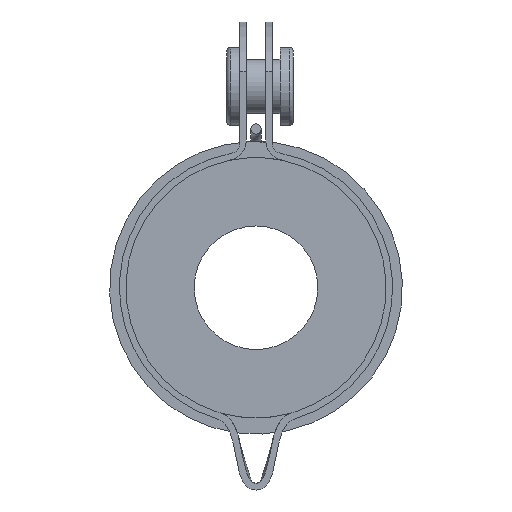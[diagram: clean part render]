
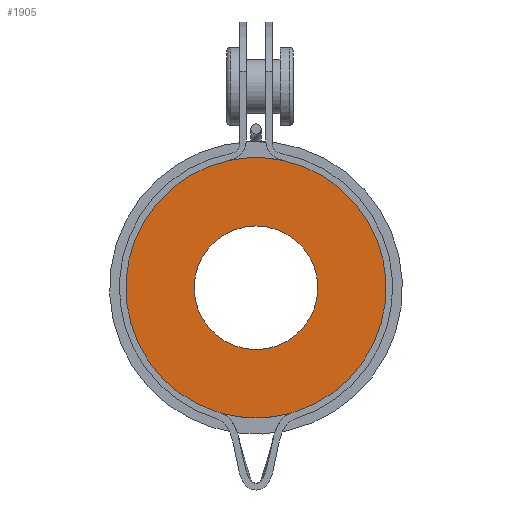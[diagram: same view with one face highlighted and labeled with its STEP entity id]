
A CAD part, front view. The second image highlights one B-rep face of the part: STEP entity #1905.
In plain terms, the highlighted planar face has unit normal (0, -1, 0).
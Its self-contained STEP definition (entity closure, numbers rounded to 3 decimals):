
#48=LINE($,#3117,#124);
#49=LINE($,#3124,#125);
#124=VECTOR($,#2494,0.151);
#125=VECTOR($,#2501,0.151);
#199=B_SPLINE_CURVE_WITH_KNOTS($,3,(#3105,#3106,#3107,#3108),
 .UNSPECIFIED.,.F.,.F.,(4,4),(0.,0.027),.UNSPECIFIED.);
#200=B_SPLINE_CURVE_WITH_KNOTS($,3,(#3112,#3113,#3114,#3115),
 .UNSPECIFIED.,.F.,.F.,(4,4),(0.125,0.151),
 .UNSPECIFIED.);
#295=FACE_BOUND($,#607,.T.);
#434=FACE_OUTER_BOUND($,#606,.T.);
#606=EDGE_LOOP($,(#1357,#1358,#1359,#1360,#1361,#1362,#1363,#1364));
#607=EDGE_LOOP($,(#1365));
#758=CIRCLE($,#2101,4.75);
#763=CIRCLE($,#2108,10.);
#764=CIRCLE($,#2109,10.);
#765=CIRCLE($,#2110,10.);
#766=CIRCLE($,#2111,10.);
#887=VERTEX_POINT($,#3077);
#896=VERTEX_POINT($,#3103);
#897=VERTEX_POINT($,#3104);
#898=VERTEX_POINT($,#3109);
#899=VERTEX_POINT($,#3111);
#900=VERTEX_POINT($,#3116);
#901=VERTEX_POINT($,#3118);
#902=VERTEX_POINT($,#3120);
#903=VERTEX_POINT($,#3122);
#1065=EDGE_CURVE($,#887,#887,#758,.T.);
#1074=EDGE_CURVE($,#896,#897,#199,.T.);
#1075=EDGE_CURVE($,#897,#898,#763,.T.);
#1076=EDGE_CURVE($,#898,#899,#200,.T.);
#1077=EDGE_CURVE($,#899,#900,#48,.T.);
#1078=EDGE_CURVE($,#900,#901,#764,.T.);
#1079=EDGE_CURVE($,#901,#902,#765,.T.);
#1080=EDGE_CURVE($,#902,#903,#766,.T.);
#1081=EDGE_CURVE($,#903,#896,#49,.T.);
#1357=ORIENTED_EDGE($,*,*,#1074,.T.);
#1358=ORIENTED_EDGE($,*,*,#1075,.T.);
#1359=ORIENTED_EDGE($,*,*,#1076,.T.);
#1360=ORIENTED_EDGE($,*,*,#1077,.T.);
#1361=ORIENTED_EDGE($,*,*,#1078,.T.);
#1362=ORIENTED_EDGE($,*,*,#1079,.T.);
#1363=ORIENTED_EDGE($,*,*,#1080,.T.);
#1364=ORIENTED_EDGE($,*,*,#1081,.T.);
#1365=ORIENTED_EDGE($,*,*,#1065,.T.);
#1695=PLANE($,#2107);
#1905=ADVANCED_FACE($,(#434,#295),#1695,.T.);
#2101=AXIS2_PLACEMENT_3D($,#3078,#2476,#2477);
#2107=AXIS2_PLACEMENT_3D($,#3102,#2490,#2491);
#2108=AXIS2_PLACEMENT_3D($,#3110,#2492,#2493);
#2109=AXIS2_PLACEMENT_3D($,#3119,#2495,#2496);
#2110=AXIS2_PLACEMENT_3D($,#3121,#2497,#2498);
#2111=AXIS2_PLACEMENT_3D($,#3123,#2499,#2500);
#2476=DIRECTION('center_axis',(0.,1.,0.));
#2477=DIRECTION('ref_axis',(1.,0.,0.));
#2490=DIRECTION('center_axis',(0.,-1.,0.));
#2491=DIRECTION('ref_axis',(0.,0.,-1.));
#2492=DIRECTION('center_axis',(0.,-1.,0.));
#2493=DIRECTION('ref_axis',(1.,0.,0.));
#2494=DIRECTION($,(0.99,0.,0.144));
#2495=DIRECTION('center_axis',(0.,-1.,0.));
#2496=DIRECTION('ref_axis',(1.,0.,0.));
#2497=DIRECTION('center_axis',(0.,-1.,0.));
#2498=DIRECTION('ref_axis',(1.,0.,0.));
#2499=DIRECTION('center_axis',(0.,-1.,0.));
#2500=DIRECTION('ref_axis',(1.,0.,0.));
#2501=DIRECTION($,(0.99,0.,-0.144));
#3077=CARTESIAN_POINT('',(-4.75,0.,0.));
#3078=CARTESIAN_POINT('Origin',(0.,0.,0.));
#3102=CARTESIAN_POINT('Origin',(0.,0.,0.));
#3103=CARTESIAN_POINT('',(-2.851,0.,-9.561));
#3104=CARTESIAN_POINT('',(-2.604,0.,-9.655));
#3105=CARTESIAN_POINT('Ctrl Pts',(-2.851,0.,-9.561));
#3106=CARTESIAN_POINT('Ctrl Pts',(-2.765,0.,-9.587));
#3107=CARTESIAN_POINT('Ctrl Pts',(-2.682,0.,
-9.618));
#3108=CARTESIAN_POINT('Ctrl Pts',(-2.604,0.,-9.655));
#3109=CARTESIAN_POINT('',(2.604,0.,-9.655));
#3110=CARTESIAN_POINT('Origin',(0.,0.,0.));
#3111=CARTESIAN_POINT('',(2.851,0.,-9.561));
#3112=CARTESIAN_POINT('Ctrl Pts',(2.604,0.,-9.655));
#3113=CARTESIAN_POINT('Ctrl Pts',(2.682,0.,
-9.618));
#3114=CARTESIAN_POINT('Ctrl Pts',(2.765,0.,-9.587));
#3115=CARTESIAN_POINT('Ctrl Pts',(2.851,0.,-9.561));
#3116=CARTESIAN_POINT('',(3.,0.,-9.539));
#3117=CARTESIAN_POINT($,(2.138,0.,-9.665));
#3118=CARTESIAN_POINT('',(2.026,0.,9.793));
#3119=CARTESIAN_POINT('Origin',(0.,0.,0.));
#3120=CARTESIAN_POINT('',(-2.026,0.,9.793));
#3121=CARTESIAN_POINT('Origin',(0.,0.,0.));
#3122=CARTESIAN_POINT('',(-3.,0.,-9.539));
#3123=CARTESIAN_POINT('Origin',(0.,0.,0.));
#3124=CARTESIAN_POINT($,(-2.138,0.,-9.665));
